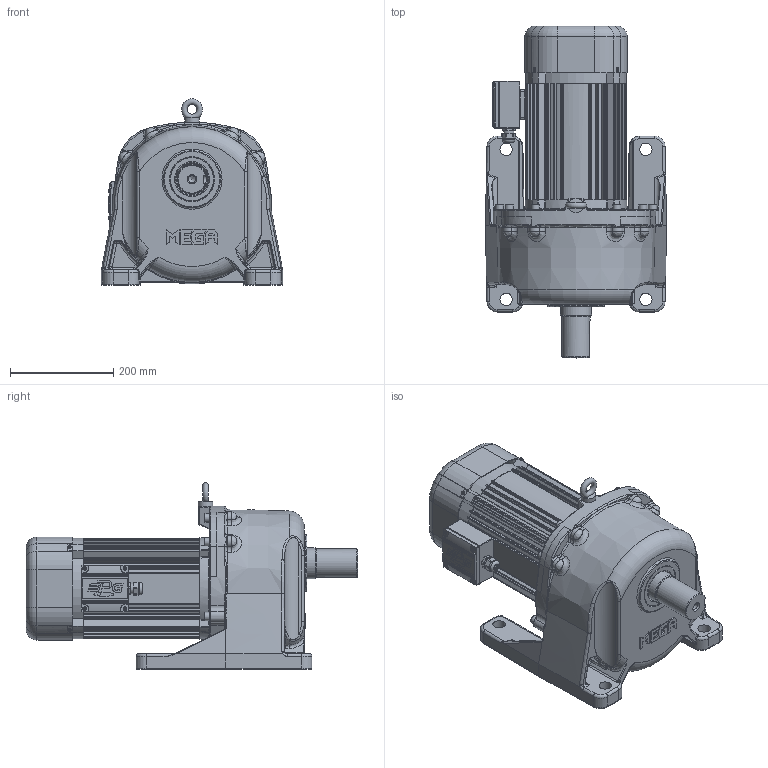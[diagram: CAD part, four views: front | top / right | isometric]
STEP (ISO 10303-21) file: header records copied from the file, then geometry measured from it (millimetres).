
FILE_DESCRIPTION(/* description */ (''),/* implementation_level */ '2;1');
FILE_NAME(/* name */ 'Z:\동력 3D 파일\PML205_2.2kW_Brake_3D.stp',/* time_stamp */ '2021-11-30T15:41:22+09:00',/* author */ ('jaebok'),/* organization */ (''),/* preprocessor_version */ 'ST-DEVELOPER v18.1',/* originating_system */ 'Autodesk Inventor 2022',/* authorisation */ '');
FILE_SCHEMA (('AUTOMOTIVE_DESIGN { 1 0 10303 214 3 1 1 }'));
Length unit declared in the file: millimetre
Products named in the file (1): 부품13
Bounding box: 350 x 641.6 x 360.47 mm (x, y, z)
Volume: 10160940.4 mm3; surface area: 1714024 mm2
Topology: 2 solids, 41 shells, 2997 faces, 7498 edges, 4540 vertices
Faces by surface type: plane 1027, cylinder 935, bspline 477, torus 299, cone 141, sphere 118
Full cylindrical faces by diameter (mm): 3.242 x4, 3.25 x1, 3.6 x4, 4 x21, 5 x13, 6 x5, 6.647 x4, 7 x8, 8 x5, 8.376 x9, 9 x4, 10 x9, 10.106 x1, 11 x8, 12 x1, 12.5 x1, 13.835 x1, 15 x1, 16 x8, 20 x2, 21 x1, 23.6 x1, 24 x5, 25 x1, 28 x1, 36 x1, 45 x1, 48 x1, 50 x1, 55 x1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
Entity records: 114847 total; most frequent: CARTESIAN_POINT 42006, DIRECTION 14770, ORIENTED_EDGE 14714, EDGE_CURVE 7357, AXIS2_PLACEMENT_3D 5920, VERTEX_POINT 4540, EDGE_LOOP 3229, CIRCLE 3204
